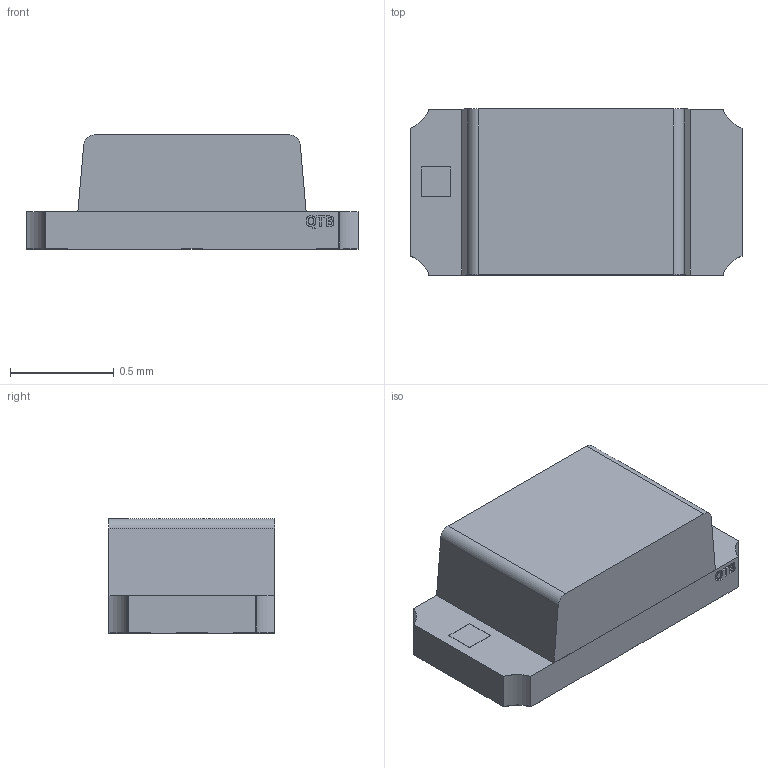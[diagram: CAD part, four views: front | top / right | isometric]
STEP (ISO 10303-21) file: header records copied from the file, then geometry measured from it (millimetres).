
FILE_DESCRIPTION(/* description */ (''),/* implementation_level */ '2;1');
FILE_NAME(/* name */ '5fab0a76a90bb40f56aa7232',/* time_stamp */ '2020-11-10T21:47:35+00:00',/* author */ (''),/* organization */ (''),/* preprocessor_version */ 'ST-DEVELOPER v16.7',/* originating_system */ $,/* authorisation */ $);
FILE_SCHEMA (('AUTOMOTIVE_DESIGN {1 0 10303 214 3 1 1}'));
Length unit declared in the file: metre
Products named in the file (10): QBLP601 (Bi-Color); Part 9; Part 6; Part 1; Part 5; Part 4; Part 7; Part 8; Part 3; Part 2
Assembly tree (2 placements, depth 2):
  QBLP601 (Bi-Color)
    Part 9
    Part 3
  Part 6
  Part 1
  Part 5
  Part 4
Bounding box: 1.6 x 0.8 x 0.55 mm (x, y, z)
Volume: 0.5 mm3; surface area: 8 mm2
Topology: 9 solids, 9 shells, 210 faces, 555 edges, 370 vertices
Faces by surface type: plane 167, bspline 29, cylinder 14
Entity records: 6763 total; most frequent: CARTESIAN_POINT 1464, ORIENTED_EDGE 1110, DIRECTION 907, EDGE_CURVE 555, LINE 469, VECTOR 469, VERTEX_POINT 370, AXIS2_PLACEMENT_3D 219
